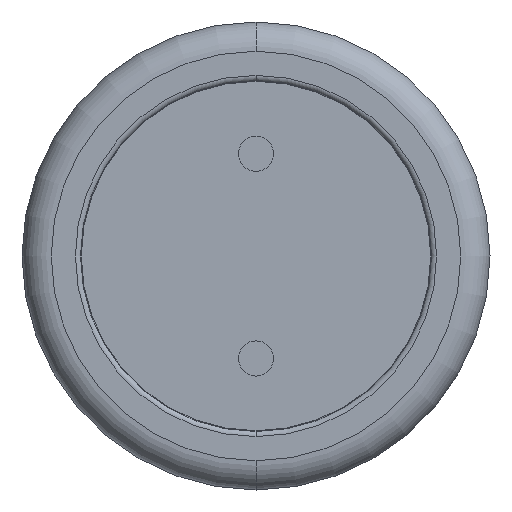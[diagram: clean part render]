
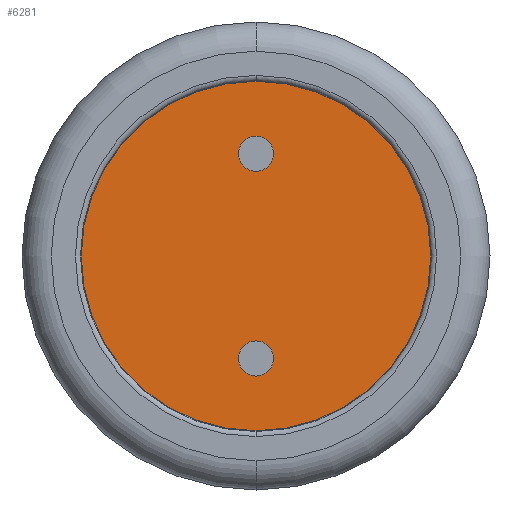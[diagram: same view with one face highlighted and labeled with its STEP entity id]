
A CAD part, left-side view. The second image highlights one B-rep face of the part: STEP entity #6281.
In plain terms, the highlighted planar face has unit normal (-1, 0, 0).
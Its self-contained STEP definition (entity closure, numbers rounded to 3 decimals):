
#40=CARTESIAN_POINT('',(-8.8,0.,0.002));
#41=DIRECTION('',(-1.,0.,0.));
#42=DIRECTION('',(0.,0.,-1.));
#43=AXIS2_PLACEMENT_3D('',#40,#41,#42);
#45=CARTESIAN_POINT('',(-8.8,0.,0.002));
#46=DIRECTION('',(1.,0.,0.));
#47=DIRECTION('',(0.,0.,-1.));
#48=AXIS2_PLACEMENT_3D('',#45,#46,#47);
#50=CARTESIAN_POINT('',(-8.8,0.,-1.75));
#51=DIRECTION('',(-1.,0.,0.));
#52=DIRECTION('',(0.,0.,-1.));
#53=AXIS2_PLACEMENT_3D('',#50,#51,#52);
#55=CARTESIAN_POINT('',(-8.8,0.,-1.75));
#56=DIRECTION('',(-1.,0.,0.));
#57=DIRECTION('',(0.,0.,1.));
#58=AXIS2_PLACEMENT_3D('',#55,#56,#57);
#60=CARTESIAN_POINT('',(-8.8,0.,1.75));
#61=DIRECTION('',(-1.,0.,0.));
#62=DIRECTION('',(0.,0.,-1.));
#63=AXIS2_PLACEMENT_3D('',#60,#61,#62);
#65=CARTESIAN_POINT('',(-8.8,0.,1.75));
#66=DIRECTION('',(-1.,0.,0.));
#67=DIRECTION('',(0.,0.,1.));
#68=AXIS2_PLACEMENT_3D('',#65,#66,#67);
#4734=CARTESIAN_POINT('',(-8.8,0.,-2.998));
#4735=VERTEX_POINT('',#4734);
#4736=CARTESIAN_POINT('',(-8.8,0.,3.002));
#4737=VERTEX_POINT('',#4736);
#4742=CARTESIAN_POINT('',(-8.8,0.,-2.05));
#4743=CARTESIAN_POINT('',(-8.8,0.,-1.45));
#4744=VERTEX_POINT('',#4742);
#4745=VERTEX_POINT('',#4743);
#4746=CARTESIAN_POINT('',(-8.8,0.,1.45));
#4747=CARTESIAN_POINT('',(-8.8,0.,2.05));
#4748=VERTEX_POINT('',#4746);
#4749=VERTEX_POINT('',#4747);
#6260=CARTESIAN_POINT('',(-8.8,0.,0.002));
#6261=DIRECTION('',(1.,0.,0.));
#6262=DIRECTION('',(0.,0.,1.));
#6263=AXIS2_PLACEMENT_3D('',#6260,#6261,#6262);
#6264=PLANE('',#6263);
#6265=ORIENTED_EDGE('',*,*,#6239,.F.);
#6266=ORIENTED_EDGE('',*,*,#6255,.T.);
#6267=EDGE_LOOP('',(#6265,#6266));
#6268=FACE_OUTER_BOUND('',#6267,.F.);
#6270=ORIENTED_EDGE('',*,*,#6269,.T.);
#6272=ORIENTED_EDGE('',*,*,#6271,.T.);
#6273=EDGE_LOOP('',(#6270,#6272));
#6274=FACE_BOUND('',#6273,.F.);
#6276=ORIENTED_EDGE('',*,*,#6275,.T.);
#6278=ORIENTED_EDGE('',*,*,#6277,.T.);
#6279=EDGE_LOOP('',(#6276,#6278));
#6280=FACE_BOUND('',#6279,.F.);
#6281=ADVANCED_FACE('',(#6268,#6274,#6280),#6264,.F.);
#44=CIRCLE('',#43,3.);
#49=CIRCLE('',#48,3.);
#54=CIRCLE('',#53,0.3);
#59=CIRCLE('',#58,0.3);
#64=CIRCLE('',#63,0.3);
#69=CIRCLE('',#68,0.3);
#6239=EDGE_CURVE('',#4735,#4737,#44,.T.);
#6255=EDGE_CURVE('',#4735,#4737,#49,.T.);
#6269=EDGE_CURVE('',#4744,#4745,#54,.T.);
#6271=EDGE_CURVE('',#4745,#4744,#59,.T.);
#6275=EDGE_CURVE('',#4748,#4749,#64,.T.);
#6277=EDGE_CURVE('',#4749,#4748,#69,.T.);
